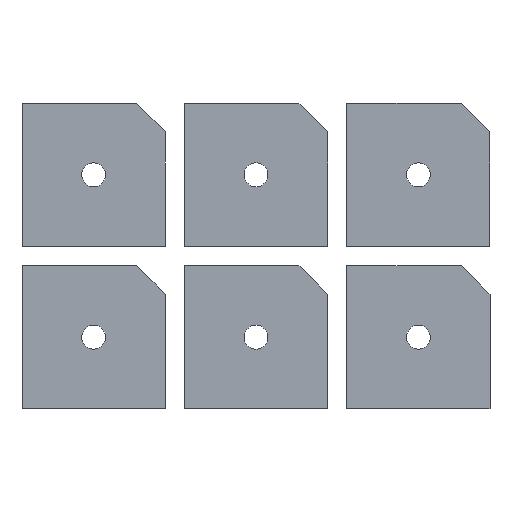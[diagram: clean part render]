
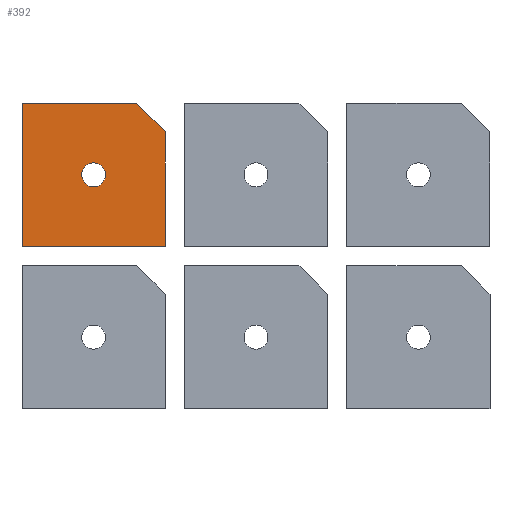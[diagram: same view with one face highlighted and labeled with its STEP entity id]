
A CAD part, front view. The second image highlights one B-rep face of the part: STEP entity #392.
In plain terms, the highlighted planar face has unit normal (0, -1, 0) as drawn and (0, 0, -1) by its records, which use the part's own axes.
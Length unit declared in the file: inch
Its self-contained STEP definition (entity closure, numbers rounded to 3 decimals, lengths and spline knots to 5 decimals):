
#32 = CIRCLE ( 'NONE', #311, 0.3125 ) ;
#63 = EDGE_CURVE ( 'NONE', #549, #693, #346, .T. ) ;
#83 = EDGE_CURVE ( 'NONE', #652, #978, #319, .T. ) ;
#90 = CARTESIAN_POINT ( 'NONE',  ( 0., 0., -0.0625 ) ) ;
#91 = EDGE_CURVE ( 'NONE', #410, #652, #333, .T. ) ;
#97 = DIRECTION ( 'NONE',  ( 1., 0., 0. ) ) ;
#129 = AXIS2_PLACEMENT_3D ( 'NONE', #1080, #1076, #1074 ) ;
#133 = EDGE_CURVE ( 'NONE', #666, #314, #270, .T. ) ;
#156 = EDGE_CURVE ( 'NONE', #549, #978, #294, .T. ) ;
#194 = DIRECTION ( 'NONE',  ( 1., 0., 0. ) ) ;
#198 = DIRECTION ( 'NONE',  ( 0., 0., 1. ) ) ;
#209 = FACE_BOUND ( 'NONE', #547, .T. ) ;
#212 = CARTESIAN_POINT ( 'NONE',  ( 1.875, 1.875, -0.0625 ) ) ;
#220 = FACE_OUTER_BOUND ( 'NONE', #920, .T. ) ;
#233 = LINE ( 'NONE', #1124, #247 ) ;
#247 = VECTOR ( 'NONE', #1120, 39.37008 ) ;
#259 = VECTOR ( 'NONE', #399, 39.37008 ) ;
#270 = CIRCLE ( 'NONE', #641, 0.3125 ) ;
#285 = CARTESIAN_POINT ( 'NONE',  ( 3.75, 0., -0.0625 ) ) ;
#289 = EDGE_CURVE ( 'NONE', #693, #410, #233, .T. ) ;
#294 = LINE ( 'NONE', #577, #259 ) ;
#296 = VECTOR ( 'NONE', #754, 39.37008 ) ;
#298 = VECTOR ( 'NONE', #97, 39.37008 ) ;
#304 = CARTESIAN_POINT ( 'NONE',  ( 0., 0., -0.0625 ) ) ;
#311 = AXIS2_PLACEMENT_3D ( 'NONE', #212, #198, #194 ) ;
#314 = VERTEX_POINT ( 'NONE', #601 ) ;
#319 = LINE ( 'NONE', #304, #298 ) ;
#328 = VECTOR ( 'NONE', #569, 39.37008 ) ;
#333 = LINE ( 'NONE', #90, #296 ) ;
#346 = LINE ( 'NONE', #285, #328 ) ;
#387 = ORIENTED_EDGE ( 'NONE', *, *, #83, .F. ) ;
#392 = ADVANCED_FACE ( 'NONE', ( #209, #220 ), #1085, .T. ) ;
#399 = DIRECTION ( 'NONE',  ( -0.707, -0.707, 0. ) ) ;
#410 = VERTEX_POINT ( 'NONE', #664 ) ;
#467 = ORIENTED_EDGE ( 'NONE', *, *, #156, .T. ) ;
#547 = EDGE_LOOP ( 'NONE', ( #715, #843 ) ) ;
#549 = VERTEX_POINT ( 'NONE', #1023 ) ;
#569 = DIRECTION ( 'NONE',  ( 0., 1., 0. ) ) ;
#577 = CARTESIAN_POINT ( 'NONE',  ( 3.375, 0.375, -0.0625 ) ) ;
#579 = ORIENTED_EDGE ( 'NONE', *, *, #91, .F. ) ;
#601 = CARTESIAN_POINT ( 'NONE',  ( 1.5625, 1.875, -0.0625 ) ) ;
#638 = CARTESIAN_POINT ( 'NONE',  ( 3., 0., -0.0625 ) ) ;
#641 = AXIS2_PLACEMENT_3D ( 'NONE', #979, #904, #822 ) ;
#652 = VERTEX_POINT ( 'NONE', #1005 ) ;
#664 = CARTESIAN_POINT ( 'NONE',  ( 0., 3.75, -0.0625 ) ) ;
#666 = VERTEX_POINT ( 'NONE', #991 ) ;
#667 = ORIENTED_EDGE ( 'NONE', *, *, #289, .F. ) ;
#693 = VERTEX_POINT ( 'NONE', #965 ) ;
#715 = ORIENTED_EDGE ( 'NONE', *, *, #133, .T. ) ;
#754 = DIRECTION ( 'NONE',  ( 0., -1., 0. ) ) ;
#822 = DIRECTION ( 'NONE',  ( 1., 0., 0. ) ) ;
#843 = ORIENTED_EDGE ( 'NONE', *, *, #1092, .T. ) ;
#904 = DIRECTION ( 'NONE',  ( 0., 0., 1. ) ) ;
#920 = EDGE_LOOP ( 'NONE', ( #987, #467, #387, #579, #667 ) ) ;
#965 = CARTESIAN_POINT ( 'NONE',  ( 3.75, 3.75, -0.0625 ) ) ;
#978 = VERTEX_POINT ( 'NONE', #638 ) ;
#979 = CARTESIAN_POINT ( 'NONE',  ( 1.875, 1.875, -0.0625 ) ) ;
#987 = ORIENTED_EDGE ( 'NONE', *, *, #63, .F. ) ;
#991 = CARTESIAN_POINT ( 'NONE',  ( 2.1875, 1.875, -0.0625 ) ) ;
#1005 = CARTESIAN_POINT ( 'NONE',  ( 0., 0., -0.0625 ) ) ;
#1023 = CARTESIAN_POINT ( 'NONE',  ( 3.75, 0.75, -0.0625 ) ) ;
#1074 = DIRECTION ( 'NONE',  ( -1., 0., 0. ) ) ;
#1076 = DIRECTION ( 'NONE',  ( 0., 0., -1. ) ) ;
#1080 = CARTESIAN_POINT ( 'NONE',  ( 0., 3.75, -0.0625 ) ) ;
#1085 = PLANE ( 'NONE',  #129 ) ;
#1092 = EDGE_CURVE ( 'NONE', #314, #666, #32, .T. ) ;
#1120 = DIRECTION ( 'NONE',  ( -1., 0., 0. ) ) ;
#1124 = CARTESIAN_POINT ( 'NONE',  ( 0., 3.75, -0.0625 ) ) ;
